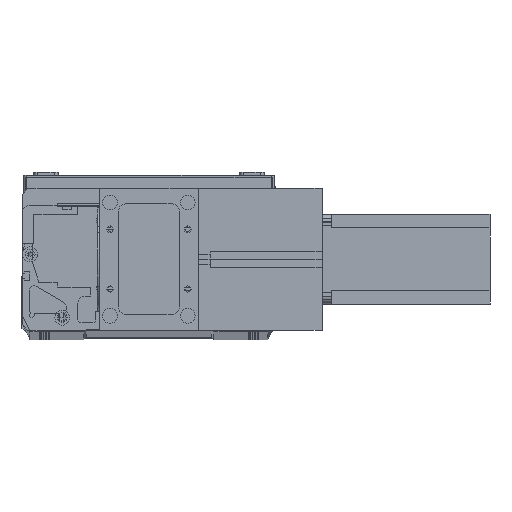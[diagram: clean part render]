
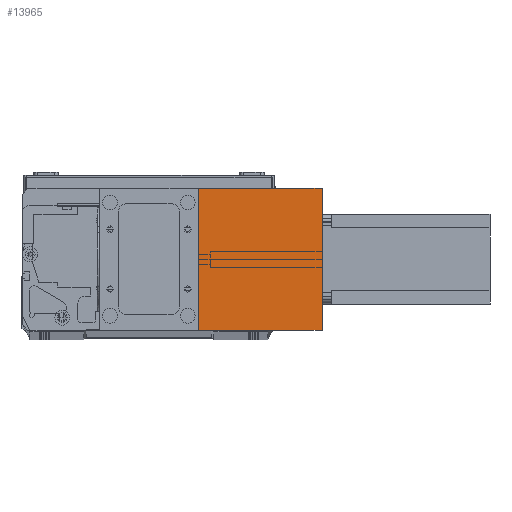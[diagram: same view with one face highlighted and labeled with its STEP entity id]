
A CAD part, top view. The second image highlights one B-rep face of the part: STEP entity #13965.
In plain terms, the highlighted planar face has unit normal (0, 0, 1) as drawn and (1, 0, 0) by its records, which use the part's own axes.
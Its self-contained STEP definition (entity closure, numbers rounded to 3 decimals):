
#498 = ORIENTED_EDGE ( 'NONE', *, *, #18676, .T. ) ;
#1095 = DIRECTION ( 'NONE',  ( 0., 0., 1. ) ) ;
#1162 = DIRECTION ( 'NONE',  ( -1., 0., 0. ) ) ;
#1943 = CARTESIAN_POINT ( 'NONE',  ( 82., 0., 83. ) ) ;
#3289 = PLANE ( 'NONE',  #11235 ) ;
#3643 = ORIENTED_EDGE ( 'NONE', *, *, #4463, .F. ) ;
#4463 = EDGE_CURVE ( 'NONE', #28012, #16711, #12746, .T. ) ;
#4748 = CARTESIAN_POINT ( 'NONE',  ( 82., 95., 83. ) ) ;
#5163 = ORIENTED_EDGE ( 'NONE', *, *, #29474, .F. ) ;
#5752 = DIRECTION ( 'NONE',  ( 0., 1., 0. ) ) ;
#7817 = VECTOR ( 'NONE', #15430, 1000. ) ;
#8338 = CARTESIAN_POINT ( 'NONE',  ( 82., 95., 83. ) ) ;
#9037 = DIRECTION ( 'NONE',  ( 0., 0., -1. ) ) ;
#10506 = CARTESIAN_POINT ( 'NONE',  ( 82., 95., 0. ) ) ;
#10717 = DIRECTION ( 'NONE',  ( 0., 0., -1. ) ) ;
#11235 = AXIS2_PLACEMENT_3D ( 'NONE', #1943, #1162, #1095 ) ;
#11952 = ORIENTED_EDGE ( 'NONE', *, *, #25738, .T. ) ;
#11965 = CARTESIAN_POINT ( 'NONE',  ( 82., 0., 83. ) ) ;
#12611 = VECTOR ( 'NONE', #10717, 1000. ) ;
#12746 = LINE ( 'NONE', #8338, #25644 ) ;
#12994 = CARTESIAN_POINT ( 'NONE',  ( 82., 0., 0. ) ) ;
#13965 = ADVANCED_FACE ( 'NONE', ( #30846 ), #3289, .F. ) ;
#15430 = DIRECTION ( 'NONE',  ( 0., 1., 0. ) ) ;
#15568 = CARTESIAN_POINT ( 'NONE',  ( 82., 0., 83. ) ) ;
#16552 = VECTOR ( 'NONE', #5752, 1000. ) ;
#16711 = VERTEX_POINT ( 'NONE', #10506 ) ;
#17335 = LINE ( 'NONE', #22906, #16552 ) ;
#18676 = EDGE_CURVE ( 'NONE', #22445, #30016, #26240, .T. ) ;
#21664 = LINE ( 'NONE', #12994, #7817 ) ;
#22154 = CARTESIAN_POINT ( 'NONE',  ( 82., 0., 0. ) ) ;
#22445 = VERTEX_POINT ( 'NONE', #11965 ) ;
#22906 = CARTESIAN_POINT ( 'NONE',  ( 82., 0., 83. ) ) ;
#25644 = VECTOR ( 'NONE', #9037, 1000. ) ;
#25738 = EDGE_CURVE ( 'NONE', #30016, #16711, #21664, .T. ) ;
#26240 = LINE ( 'NONE', #15568, #12611 ) ;
#26808 = EDGE_LOOP ( 'NONE', ( #11952, #3643, #5163, #498 ) ) ;
#28012 = VERTEX_POINT ( 'NONE', #4748 ) ;
#29474 = EDGE_CURVE ( 'NONE', #22445, #28012, #17335, .T. ) ;
#30016 = VERTEX_POINT ( 'NONE', #22154 ) ;
#30846 = FACE_OUTER_BOUND ( 'NONE', #26808, .T. ) ;
